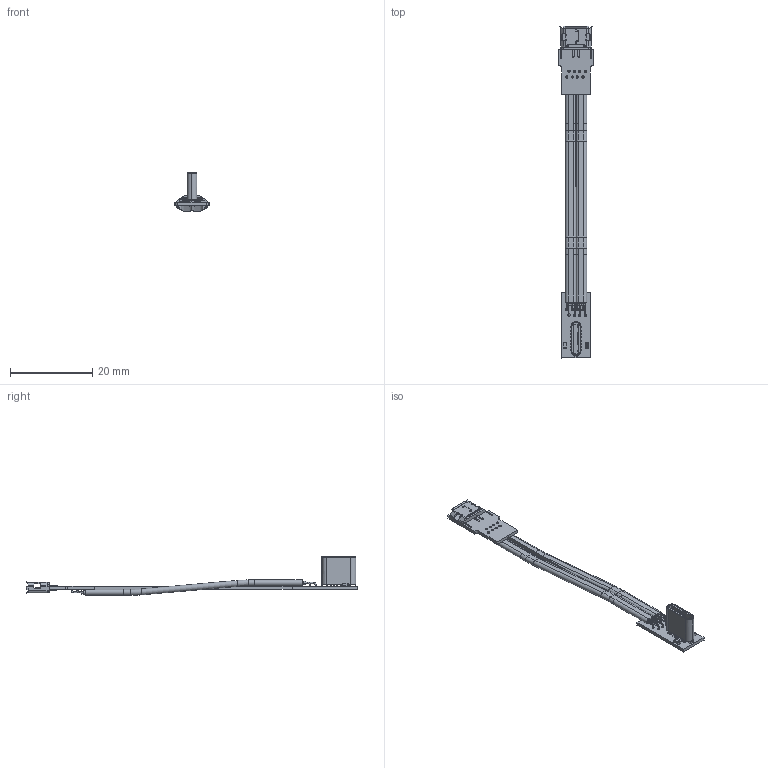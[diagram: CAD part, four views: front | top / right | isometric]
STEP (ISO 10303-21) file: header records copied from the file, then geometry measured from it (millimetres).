
FILE_DESCRIPTION(('Open CASCADE Model'),'2;1');
FILE_NAME('Open CASCADE Shape Model','2022-04-24T15:09:26',('Author'),( 'Open CASCADE'),'Open CASCADE STEP processor 6.8','Open CASCADE 6.8' ,'Unknown');
FILE_SCHEMA(('AUTOMOTIVE_DESIGN { 1 0 10303 214 1 1 1 1 }'));
Length unit declared in the file: millimetre
Products named in the file (86): PCB; Board; Open CASCADE STEP translator 6.8 3.1.1; Open CASCADE STEP translator 6.8 3.1.1.1; Designator22; Micro_usb_vetical_Crimping_20211215; Designator12; T2D-4_20211026; 12; 0603_RES; Capsule; Encapsulation; TopCover; C0603_060; Free-Models; 8_pin_S_20211217
Assembly tree (92 placements, depth 4):
  PCB
    Board
      Open CASCADE STEP translator 6.8 3.1.1
        Open CASCADE STEP translator 6.8 3.1.1.1
    Designator22
      Micro_usb_vetical_Crimping_20211215  x2
      Micro_usb_vetical_Crimping_20211215
      Micro_usb_vetical_Crimping_20211215  x2
      Micro_usb_vetical_Crimping_20211215
      Micro_usb_vetical_Crimping_20211215  x2
      Micro_usb_vetical_Crimping_20211215
      Micro_usb_vetical_Crimping_20211215  x2
      Micro_usb_vetical_Crimping_20211215
      Micro_usb_vetical_Crimping_20211215  x2
      Micro_usb_vetical_Crimping_20211215
      Micro_usb_vetical_Crimping_20211215  x2
      Micro_usb_vetical_Crimping_20211215
    Designator12
      T2D-4_20211026
      T2D-4_20211026
      T2D-4_20211026
      T2D-4_20211026
      T2D-4_20211026
      T2D-4_20211026
      T2D-4_20211026
      T2D-4_20211026
      T2D-4_20211026
      T2D-4_20211026
      T2D-4_20211026
      T2D-4_20211026
      T2D-4_20211026
      T2D-4_20211026
      T2D-4_20211026
      T2D-4_20211026
      T2D-4_20211026
      T2D-4_20211026
      T2D-4_20211026
      T2D-4_20211026
      T2D-4_20211026
      T2D-4_20211026
      T2D-4_20211026
      T2D-4_20211026
      T2D-4_20211026
      T2D-4_20211026
      T2D-4_20211026
      T2D-4_20211026
      T2D-4_20211026
      T2D-4_20211026
      T2D-4_20211026
      T2D-4_20211026
      T2D-4_20211026
      T2D-4_20211026
      T2D-4_20211026
      T2D-4_20211026
      T2D-4_20211026
      T2D-4_20211026
      T2D-4_20211026
      T2D-4_20211026
      T2D-4_20211026
      T2D-4_20211026
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Bounding box: 8.61 x 80.58 x 9.4 mm (x, y, z)
Volume: 611.6 mm3; surface area: 3886 mm2
Topology: 112 solids, 112 shells, 2042 faces, 5160 edges, 3330 vertices
Faces by surface type: plane 1225, cylinder 657, bspline 86, torus 58, extrusion 8, sphere 8
Full cylindrical faces by diameter (mm): 0.55 x16
Entity records: 66533 total; most frequent: CARTESIAN_POINT 10509, DIRECTION 8660, ORIENTED_EDGE 8460, EDGE_CURVE 4230, VECTOR 2938, LINE 2930, AXIS2_PLACEMENT_3D 2861, VERTEX_POINT 2742
